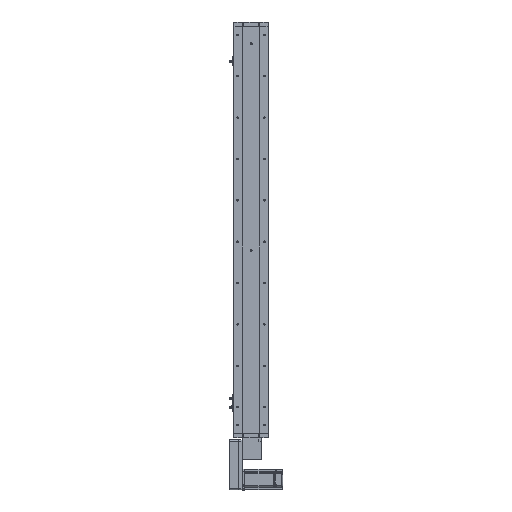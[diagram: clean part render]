
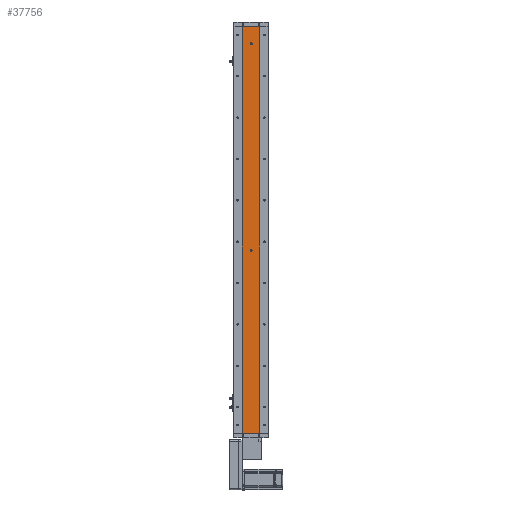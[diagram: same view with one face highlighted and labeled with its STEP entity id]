
A CAD part, left-side view. The second image highlights one B-rep face of the part: STEP entity #37756.
In plain terms, the highlighted planar face has unit normal (-1, 0, 0).
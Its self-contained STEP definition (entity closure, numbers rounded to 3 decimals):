
#5707 = CARTESIAN_POINT ( 'NONE',  ( -18.926, 0., 1130. ) ) ;
#7542 = VECTOR ( 'NONE', #34897, 1000. ) ;
#8167 = LINE ( 'NONE', #34105, #23679 ) ;
#9444 = CARTESIAN_POINT ( 'NONE',  ( -18.926, 24.785, 0. ) ) ;
#10125 = LINE ( 'NONE', #68271, #25633 ) ;
#10691 = EDGE_CURVE ( 'NONE', #48779, #52734, #8167, .T. ) ;
#11629 = DIRECTION ( 'NONE',  ( 0., 0., 1. ) ) ;
#11698 = DIRECTION ( 'NONE',  ( 1., 0., 0. ) ) ;
#12083 = AXIS2_PLACEMENT_3D ( 'NONE', #46535, #11698, #52375 ) ;
#12170 = CARTESIAN_POINT ( 'NONE',  ( -18.926, 24.785, 0. ) ) ;
#13217 = CARTESIAN_POINT ( 'NONE',  ( -18.926, -24.785, 1180. ) ) ;
#13376 = VERTEX_POINT ( 'NONE', #12170 ) ;
#13789 = ORIENTED_EDGE ( 'NONE', *, *, #54576, .F. ) ;
#14486 = EDGE_LOOP ( 'NONE', ( #53675, #50614, #39634, #49140 ) ) ;
#15212 = LINE ( 'NONE', #9444, #57986 ) ;
#15284 = DIRECTION ( 'NONE',  ( 0., -1., 0. ) ) ;
#15810 = ORIENTED_EDGE ( 'NONE', *, *, #53230, .F. ) ;
#16771 = DIRECTION ( 'NONE',  ( 0., 0., -1. ) ) ;
#17745 = CIRCLE ( 'NONE', #63834, 3. ) ;
#19226 = CARTESIAN_POINT ( 'NONE',  ( -18.926, 0., 1127. ) ) ;
#21543 = CARTESIAN_POINT ( 'NONE',  ( -18.926, -24.785, 0. ) ) ;
#21701 = CARTESIAN_POINT ( 'NONE',  ( -18.926, 0., 527. ) ) ;
#22192 = AXIS2_PLACEMENT_3D ( 'NONE', #32084, #72928, #37979 ) ;
#23053 = LINE ( 'NONE', #51965, #7542 ) ;
#23679 = VECTOR ( 'NONE', #16771, 1000. ) ;
#25403 = CARTESIAN_POINT ( 'NONE',  ( -18.926, 0., 530. ) ) ;
#25633 = VECTOR ( 'NONE', #27584, 1000. ) ;
#27584 = DIRECTION ( 'NONE',  ( 0., 0., -1. ) ) ;
#29272 = ORIENTED_EDGE ( 'NONE', *, *, #64625, .F. ) ;
#29460 = EDGE_LOOP ( 'NONE', ( #29272, #13789 ) ) ;
#29840 = CIRCLE ( 'NONE', #57418, 3. ) ;
#31171 = DIRECTION ( 'NONE',  ( 0., 0., 1. ) ) ;
#31776 = CARTESIAN_POINT ( 'NONE',  ( -18.926, 0., 1130. ) ) ;
#32027 = EDGE_CURVE ( 'NONE', #49955, #13376, #10125, .T. ) ;
#32084 = CARTESIAN_POINT ( 'NONE',  ( -18.926, 0., 530. ) ) ;
#33114 = AXIS2_PLACEMENT_3D ( 'NONE', #25403, #66092, #31171 ) ;
#34105 = CARTESIAN_POINT ( 'NONE',  ( -18.926, -24.785, 1180. ) ) ;
#34897 = DIRECTION ( 'NONE',  ( 0., -1., 0. ) ) ;
#37656 = DIRECTION ( 'NONE',  ( 0., 0., 1. ) ) ;
#37756 = ADVANCED_FACE ( 'NONE', ( #42503, #57925, #73517 ), #52122, .F. ) ;
#37952 = VERTEX_POINT ( 'NONE', #66097 ) ;
#37979 = DIRECTION ( 'NONE',  ( 0., 0., 1. ) ) ;
#39634 = ORIENTED_EDGE ( 'NONE', *, *, #72861, .F. ) ;
#39957 = CARTESIAN_POINT ( 'NONE',  ( -18.926, 0., 533. ) ) ;
#42503 = FACE_BOUND ( 'NONE', #42952, .T. ) ;
#42952 = EDGE_LOOP ( 'NONE', ( #46998, #15810 ) ) ;
#44032 = CIRCLE ( 'NONE', #22192, 3. ) ;
#45149 = EDGE_CURVE ( 'NONE', #13376, #52734, #15212, .T. ) ;
#46477 = DIRECTION ( 'NONE',  ( -1., 0., 0. ) ) ;
#46535 = CARTESIAN_POINT ( 'NONE',  ( -18.926, 24.785, 1180. ) ) ;
#46998 = ORIENTED_EDGE ( 'NONE', *, *, #49813, .F. ) ;
#48779 = VERTEX_POINT ( 'NONE', #13217 ) ;
#49140 = ORIENTED_EDGE ( 'NONE', *, *, #32027, .T. ) ;
#49813 = EDGE_CURVE ( 'NONE', #75139, #53410, #59152, .T. ) ;
#49955 = VERTEX_POINT ( 'NONE', #56163 ) ;
#50614 = ORIENTED_EDGE ( 'NONE', *, *, #10691, .F. ) ;
#51965 = CARTESIAN_POINT ( 'NONE',  ( -18.926, 24.785, 1180. ) ) ;
#52122 = PLANE ( 'NONE',  #12083 ) ;
#52375 = DIRECTION ( 'NONE',  ( 0., 0., -1. ) ) ;
#52734 = VERTEX_POINT ( 'NONE', #21543 ) ;
#53230 = EDGE_CURVE ( 'NONE', #53410, #75139, #44032, .T. ) ;
#53410 = VERTEX_POINT ( 'NONE', #21701 ) ;
#53675 = ORIENTED_EDGE ( 'NONE', *, *, #45149, .T. ) ;
#54576 = EDGE_CURVE ( 'NONE', #68050, #37952, #29840, .T. ) ;
#56163 = CARTESIAN_POINT ( 'NONE',  ( -18.926, 24.785, 1180. ) ) ;
#57418 = AXIS2_PLACEMENT_3D ( 'NONE', #5707, #46477, #11629 ) ;
#57925 = FACE_BOUND ( 'NONE', #29460, .T. ) ;
#57986 = VECTOR ( 'NONE', #15284, 1000. ) ;
#59152 = CIRCLE ( 'NONE', #33114, 3. ) ;
#63834 = AXIS2_PLACEMENT_3D ( 'NONE', #31776, #72601, #37656 ) ;
#64625 = EDGE_CURVE ( 'NONE', #37952, #68050, #17745, .T. ) ;
#66092 = DIRECTION ( 'NONE',  ( -1., 0., 0. ) ) ;
#66097 = CARTESIAN_POINT ( 'NONE',  ( -18.926, 0., 1133. ) ) ;
#68050 = VERTEX_POINT ( 'NONE', #19226 ) ;
#68271 = CARTESIAN_POINT ( 'NONE',  ( -18.926, 24.785, 1180. ) ) ;
#72601 = DIRECTION ( 'NONE',  ( -1., 0., 0. ) ) ;
#72861 = EDGE_CURVE ( 'NONE', #49955, #48779, #23053, .T. ) ;
#72928 = DIRECTION ( 'NONE',  ( -1., 0., 0. ) ) ;
#73517 = FACE_OUTER_BOUND ( 'NONE', #14486, .T. ) ;
#75139 = VERTEX_POINT ( 'NONE', #39957 ) ;
